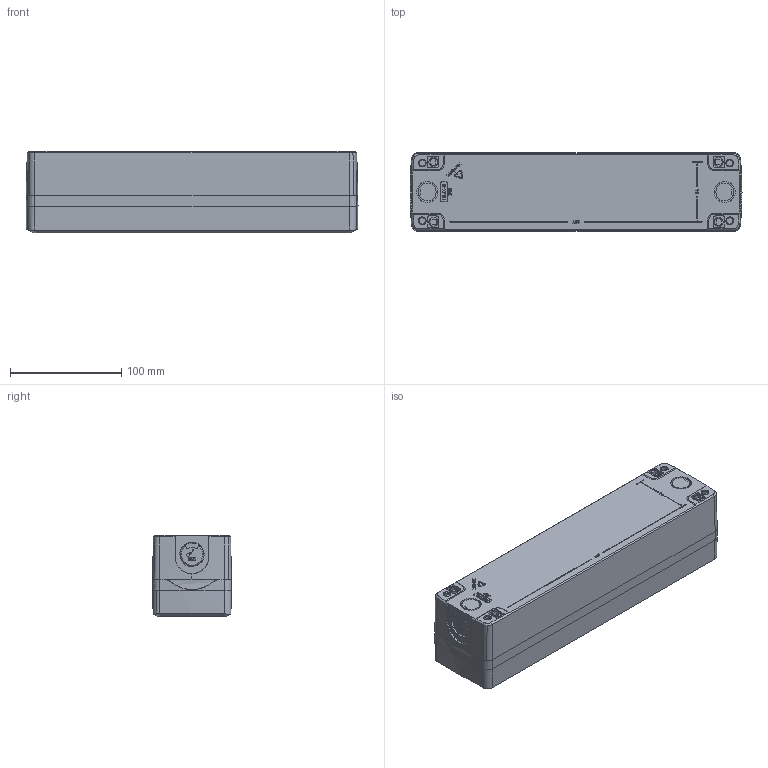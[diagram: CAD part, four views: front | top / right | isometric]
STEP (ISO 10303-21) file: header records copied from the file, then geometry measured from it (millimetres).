
FILE_DESCRIPTION (( 'STEP AP203' ), '1' );
FILE_NAME ('MC06.STEP', '2025-12-12T14:03:10', ( '' ), ( '' ), 'SwSTEP 2.0', 'SolidWorks 2022', '' );
FILE_SCHEMA (( 'CONFIG_CONTROL_DESIGN' ));
Length unit declared in the file: millimetre
Products named in the file (1): MC06
Bounding box: 299 x 71 x 73.5 mm (x, y, z)
Volume: 744650 mm3; surface area: 169461.7 mm2
Topology: 1 solids, 1 shells, 1330 faces, 3620 edges, 2390 vertices
Faces by surface type: plane 797, cylinder 225, bspline 207, cone 101
Entity records: 49330 total; most frequent: CARTESIAN_POINT 16981, ORIENTED_EDGE 7240, DIRECTION 5833, EDGE_CURVE 3620, LINE 2397, VECTOR 2397, VERTEX_POINT 2390, AXIS2_PLACEMENT_3D 1718
